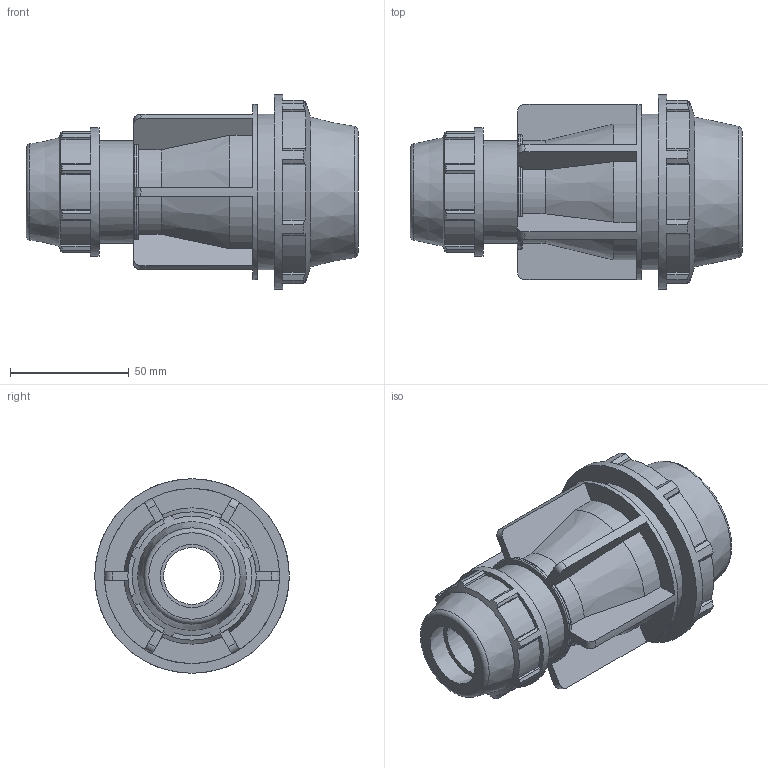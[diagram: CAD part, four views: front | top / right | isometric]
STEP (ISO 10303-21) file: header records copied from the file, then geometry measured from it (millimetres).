
FILE_DESCRIPTION(/* description */ ('PLASSON REDUCING COUPLER 1 1/4'''' - 3/4'''''),/* implementation_level */ '2;1');
FILE_NAME(/* name */ 'C:\Dropbox\KIMPROJECTS-Inventor 2019\99-16-3568-Processing Inch\ASTM Compression 2021\0711M0\0711M0013007.ipt.stp',/* time_stamp */ '2021-08-26T12:32:35+03:00',/* author */ ('KIM'),/* organization */ (''),/* preprocessor_version */ 'ST-DEVELOPER v17.2',/* originating_system */ 'Autodesk Inventor 2019',/* authorisation */ '');
FILE_SCHEMA (('AUTOMOTIVE_DESIGN { 1 0 10303 214 3 1 1 }'));
Length unit declared in the file: inch
Products named in the file (1): 0711M0013007
Bounding box: 140 x 82.04 x 82.04 mm (x, y, z)
Volume: 218776.5 mm3; surface area: 57638.1 mm2
Topology: 1 solids, 1 shells, 218 faces, 650 edges, 441 vertices
Faces by surface type: plane 143, cylinder 47, cone 14, torus 14
Full cylindrical faces by diameter (mm): 26.6 x1, 42.1 x1, 43.282 x1, 54.102 x1, 65.634 x1, 73.838 x1, 82.042 x1
Entity records: 7808 total; most frequent: CARTESIAN_POINT 1664, ORIENTED_EDGE 1300, DIRECTION 1201, EDGE_CURVE 650, VERTEX_POINT 441, AXIS2_PLACEMENT_3D 419, LINE 363, VECTOR 363
